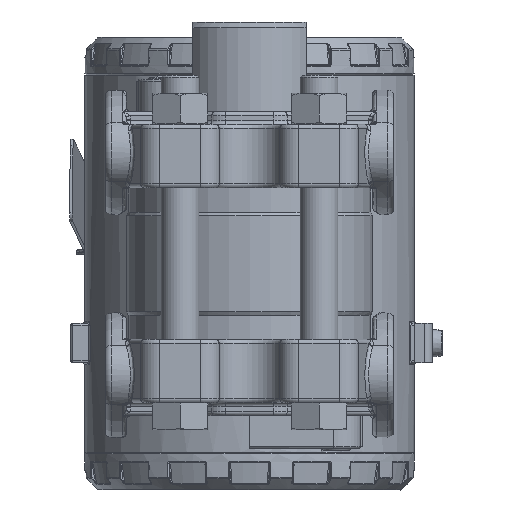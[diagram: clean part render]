
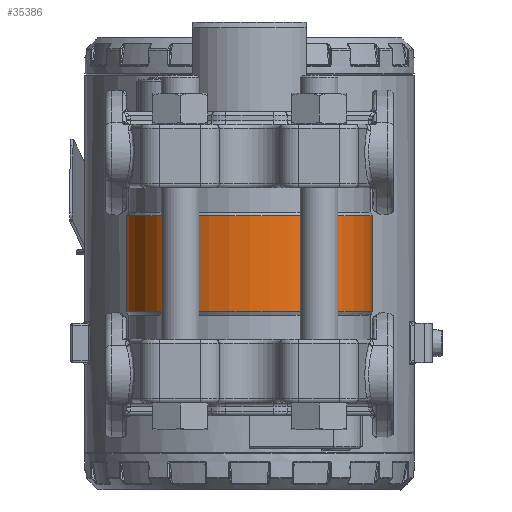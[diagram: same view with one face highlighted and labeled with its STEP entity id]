
A CAD part, left-side view. The second image highlights one B-rep face of the part: STEP entity #35386.
In plain terms, the highlighted cylindrical face has radius 31 mm (diameter 62 mm), a partial arc.
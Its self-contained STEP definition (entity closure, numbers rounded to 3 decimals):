
#1661=CYLINDRICAL_SURFACE('',#38250,31.);
#2713=FACE_OUTER_BOUND('',#5084,.T.);
#5084=EDGE_LOOP('',(#23651,#23652,#23653,#23654,#23655,#23656,#23657,#23658,
#23659,#23660));
#7563=LINE('',#53998,#9001);
#7564=LINE('',#54012,#9002);
#9001=VECTOR('',#43005,10.);
#9002=VECTOR('',#43006,10.);
#10436=CIRCLE('',#38230,31.);
#10439=CIRCLE('',#38233,31.);
#10445=CIRCLE('',#38243,31.);
#10446=CIRCLE('',#38244,31.);
#13205=B_SPLINE_CURVE_WITH_KNOTS('',3,(#53973,#53974,#53975,#53976,#53977,
#53978),.UNSPECIFIED.,.F.,.F.,(4,1,1,4),(0.383,0.548,
0.913,1.279),.UNSPECIFIED.);
#13207=B_SPLINE_CURVE_WITH_KNOTS('',3,(#53991,#53992,#53993,#53994,#53995,
#53996),.UNSPECIFIED.,.F.,.F.,(4,1,1,4),(0.,0.274,0.548,
0.896),.UNSPECIFIED.);
#13208=B_SPLINE_CURVE_WITH_KNOTS('',3,(#53999,#54000,#54001,#54002,#54003,
#54004),.UNSPECIFIED.,.F.,.F.,(4,1,1,4),(0.383,0.548,
0.913,1.279),.UNSPECIFIED.);
#13209=B_SPLINE_CURVE_WITH_KNOTS('',3,(#54006,#54007,#54008,#54009,#54010,
#54011),.UNSPECIFIED.,.F.,.F.,(4,1,1,4),(0.,0.274,
0.548,0.895),.UNSPECIFIED.);
#14518=VERTEX_POINT('',#53840);
#14520=VERTEX_POINT('',#53853);
#14521=VERTEX_POINT('',#53866);
#14533=VERTEX_POINT('',#53909);
#14534=VERTEX_POINT('',#53911);
#14535=VERTEX_POINT('',#53923);
#14537=VERTEX_POINT('',#53972);
#14540=VERTEX_POINT('',#53990);
#14541=VERTEX_POINT('',#53997);
#14542=VERTEX_POINT('',#54005);
#17933=EDGE_CURVE('',#14521,#14520,#10436,.T.);
#17937=EDGE_CURVE('',#14518,#14521,#10439,.T.);
#17949=EDGE_CURVE('',#14534,#14533,#10445,.T.);
#17952=EDGE_CURVE('',#14533,#14535,#10446,.T.);
#17956=EDGE_CURVE('',#14518,#14537,#13205,.T.);
#17960=EDGE_CURVE('',#14540,#14520,#13207,.T.);
#17961=EDGE_CURVE('',#14541,#14540,#7563,.T.);
#17962=EDGE_CURVE('',#14534,#14541,#13208,.T.);
#17963=EDGE_CURVE('',#14542,#14535,#13209,.T.);
#17964=EDGE_CURVE('',#14537,#14542,#7564,.T.);
#23651=ORIENTED_EDGE('',*,*,#17937,.T.);
#23652=ORIENTED_EDGE('',*,*,#17933,.T.);
#23653=ORIENTED_EDGE('',*,*,#17960,.F.);
#23654=ORIENTED_EDGE('',*,*,#17961,.F.);
#23655=ORIENTED_EDGE('',*,*,#17962,.F.);
#23656=ORIENTED_EDGE('',*,*,#17949,.T.);
#23657=ORIENTED_EDGE('',*,*,#17952,.T.);
#23658=ORIENTED_EDGE('',*,*,#17963,.F.);
#23659=ORIENTED_EDGE('',*,*,#17964,.F.);
#23660=ORIENTED_EDGE('',*,*,#17956,.F.);
#35386=ADVANCED_FACE('',(#2713),#1661,.T.);
#38230=AXIS2_PLACEMENT_3D('',#53867,#42959,#42960);
#38233=AXIS2_PLACEMENT_3D('',#53873,#42966,#42967);
#38243=AXIS2_PLACEMENT_3D('',#53912,#42988,#42989);
#38244=AXIS2_PLACEMENT_3D('',#53936,#42990,#42991);
#38250=AXIS2_PLACEMENT_3D('',#53989,#43003,#43004);
#42959=DIRECTION('center_axis',(0.,0.,1.));
#42960=DIRECTION('ref_axis',(-1.,0.,0.));
#42966=DIRECTION('center_axis',(0.,0.,1.));
#42967=DIRECTION('ref_axis',(-1.,0.,0.));
#42988=DIRECTION('center_axis',(0.,0.,-1.));
#42989=DIRECTION('ref_axis',(-1.,0.,0.));
#42990=DIRECTION('center_axis',(0.,0.,-1.));
#42991=DIRECTION('ref_axis',(-1.,0.,0.));
#43003=DIRECTION('center_axis',(0.,0.,1.));
#43004=DIRECTION('ref_axis',(-1.,0.,0.));
#43005=DIRECTION('',(0.,0.,-1.));
#43006=DIRECTION('',(0.,0.,1.));
#53840=CARTESIAN_POINT('',(29.987,7.86,-12.134));
#53853=CARTESIAN_POINT('',(29.987,-7.86,-12.134));
#53866=CARTESIAN_POINT('',(-31.,0.,-12.134));
#53867=CARTESIAN_POINT('Origin',(0.,0.,-12.134));
#53873=CARTESIAN_POINT('Origin',(0.,0.,-12.134));
#53909=CARTESIAN_POINT('',(-31.,0.,12.134));
#53911=CARTESIAN_POINT('',(29.987,-7.86,12.134));
#53912=CARTESIAN_POINT('Origin',(0.,0.,12.134));
#53923=CARTESIAN_POINT('',(29.987,7.86,12.134));
#53936=CARTESIAN_POINT('Origin',(0.,0.,12.134));
#53972=CARTESIAN_POINT('',(28.645,11.853,-5.));
#53973=CARTESIAN_POINT('Ctrl Pts',(29.985,7.857,-12.131));
#53974=CARTESIAN_POINT('Ctrl Pts',(29.871,8.293,-11.889));
#53975=CARTESIAN_POINT('Ctrl Pts',(29.495,9.621,-10.961));
#53976=CARTESIAN_POINT('Ctrl Pts',(28.867,11.328,-8.643));
#53977=CARTESIAN_POINT('Ctrl Pts',(28.645,11.853,-6.218));
#53978=CARTESIAN_POINT('Ctrl Pts',(28.645,11.853,-5.));
#53989=CARTESIAN_POINT('Origin',(0.,0.,0.));
#53990=CARTESIAN_POINT('',(28.645,-11.853,-5.));
#53991=CARTESIAN_POINT('Ctrl Pts',(28.645,-11.853,-5.));
#53992=CARTESIAN_POINT('Ctrl Pts',(28.645,-11.853,-5.913));
#53993=CARTESIAN_POINT('Ctrl Pts',(28.767,-11.563,-7.738));
#53994=CARTESIAN_POINT('Ctrl Pts',(29.282,-10.232,-10.332));
#53995=CARTESIAN_POINT('Ctrl Pts',(29.747,-8.777,-11.623));
#53996=CARTESIAN_POINT('Ctrl Pts',(29.987,-7.86,-12.134));
#53997=CARTESIAN_POINT('',(28.645,-11.853,5.));
#53998=CARTESIAN_POINT('',(28.645,-11.853,0.));
#53999=CARTESIAN_POINT('Ctrl Pts',(29.985,-7.857,12.131));
#54000=CARTESIAN_POINT('Ctrl Pts',(29.871,-8.293,11.889));
#54001=CARTESIAN_POINT('Ctrl Pts',(29.495,-9.621,10.961));
#54002=CARTESIAN_POINT('Ctrl Pts',(28.867,-11.328,8.643));
#54003=CARTESIAN_POINT('Ctrl Pts',(28.645,-11.853,6.218));
#54004=CARTESIAN_POINT('Ctrl Pts',(28.645,-11.853,5.));
#54005=CARTESIAN_POINT('',(28.645,11.853,5.));
#54006=CARTESIAN_POINT('Ctrl Pts',(28.645,11.853,5.));
#54007=CARTESIAN_POINT('Ctrl Pts',(28.645,11.853,5.913));
#54008=CARTESIAN_POINT('Ctrl Pts',(28.767,11.563,7.738));
#54009=CARTESIAN_POINT('Ctrl Pts',(29.282,10.232,10.332));
#54010=CARTESIAN_POINT('Ctrl Pts',(29.747,8.777,11.623));
#54011=CARTESIAN_POINT('Ctrl Pts',(29.987,7.86,12.134));
#54012=CARTESIAN_POINT('',(28.645,11.853,0.));
